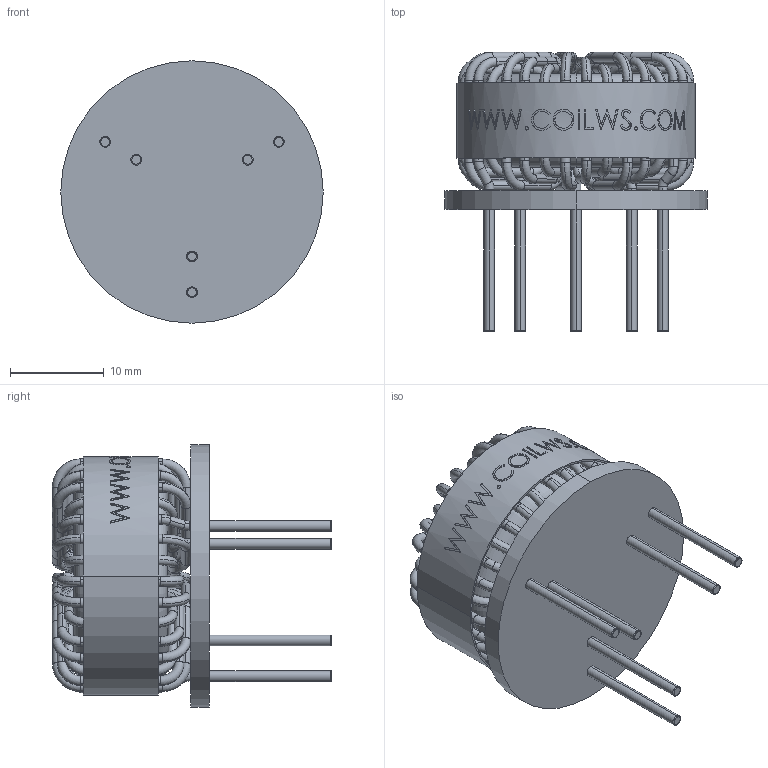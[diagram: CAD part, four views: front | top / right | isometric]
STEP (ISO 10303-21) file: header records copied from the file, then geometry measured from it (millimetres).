
FILE_DESCRIPTION (( 'STEP AP214' ), '1' );
FILE_NAME ('TPF-502U-B08A.STEP', '2023-01-05T06:06:39', ( '' ), ( '' ), 'SwSTEP 2.0', 'SolidWorks 2015', '' );
FILE_SCHEMA (( 'AUTOMOTIVE_DESIGN' ));
Length unit declared in the file: millimetre
Products named in the file (5): WRAP; PCB; TPF-502U-B08A; CORE; WINDING
Assembly tree (4 placements, depth 2):
  TPF-502U-B08A
    WINDING
    CORE
    PCB
    WRAP
Bounding box: 27.94 x 29.72 x 27.94 mm (x, y, z)
Volume: 5659.5 mm3; surface area: 8668.8 mm2
Topology: 12 solids, 12 shells, 854 faces, 2376 edges, 1562 vertices
Faces by surface type: cylinder 396, torus 296, bspline 103, plane 59
Entity records: 37278 total; most frequent: CARTESIAN_POINT 13150, DIRECTION 4944, ORIENTED_EDGE 4752, EDGE_CURVE 2376, AXIS2_PLACEMENT_3D 2272, VERTEX_POINT 1562, CIRCLE 1514, EDGE_LOOP 886
